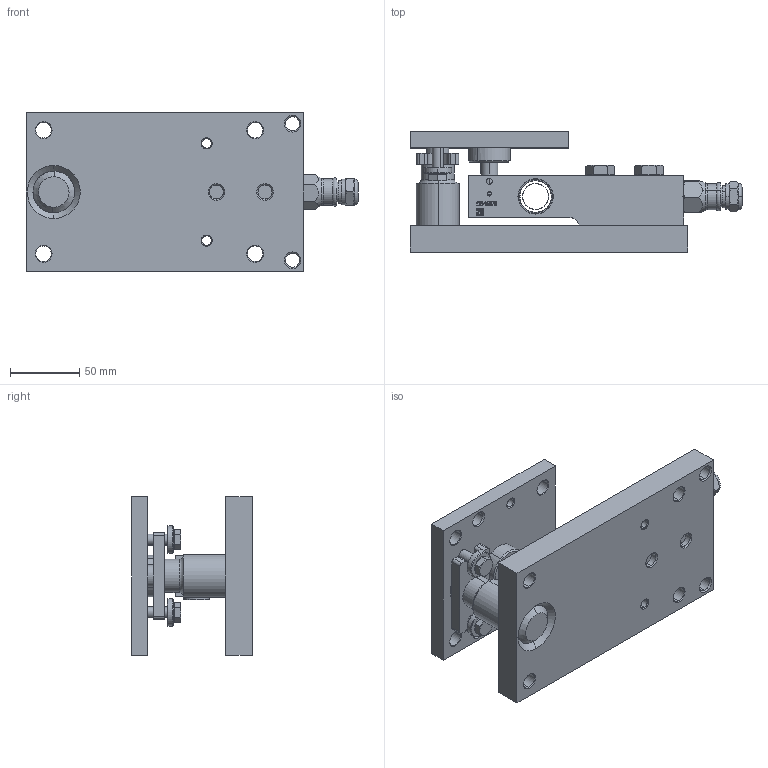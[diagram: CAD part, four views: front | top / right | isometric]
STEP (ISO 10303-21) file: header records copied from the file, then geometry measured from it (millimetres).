
FILE_DESCRIPTION (( 'STEP AP214' ), '1' );
FILE_NAME ('Load_Point_HI ONELP-H-1.125KLB-4.5KLB-XX_Without Check Links.STEP', '2016-08-18T21:34:58', ( 'Jim' ), ( 'Hewlett-Packard Company' ), 'SwSTEP 2.0', 'SolidWorks 2015', '' );
FILE_SCHEMA (( 'AUTOMOTIVE_DESIGN' ));
Length unit declared in the file: millimetre
Products named in the file (25): 0045191; 0019744; 0006668; 0005558; 0005556; 0006798; 0006697; 0009442; 0005552; 0005550; 0006620; Lift-Off Washer; Top Plate; ROCKER PIN ASSEMBLY; Base Plate Assembly; O-Ring; Lift-Off Plate; Rocker Pin; Center Pillar; Hex Screw GradeAB_ISO_ISO 4017 - M8 x 30-N-A2.70; Base Plate; Load Cup; Hex Screw GradeAB_ISO_ISO 4017 - M12 x 50-N-A2.70; Load_Point_HI ONELP-H-1.125KLB-4.5KLB-XX_Without Check Links; Load Sensor
Assembly tree (28 placements, depth 3):
  Load_Point_HI ONELP-H-1.125KLB-4.5KLB-XX_Without Check Links
    Base Plate Assembly
      Base Plate
      Center Pillar
      Lift-Off Plate
    Top Plate
    Lift-Off Washer  x2
    Load Sensor
      0006620
      0005550
      0005552
      0009442
      0006697
      0006798
      0005556
      0005558
      0006668
      0019744
      0045191
    Hex Screw GradeAB_ISO_ISO 4017 - M12 x 50-N-A2.70  x2
    Load Cup
    Hex Screw GradeAB_ISO_ISO 4017 - M8 x 30-N-A2.70  x2
    ROCKER PIN ASSEMBLY
      Rocker Pin
      O-Ring  x2
Bounding box: 239.13 x 86.75 x 114.3 mm (x, y, z)
Volume: 764217.8 mm3; surface area: 169801.6 mm2
Topology: 25 solids, 25 shells, 7172 faces, 20057 edges, 13679 vertices
Faces by surface type: bspline 4694, plane 1851, cylinder 394, cone 187, torus 46
Entity records: 372116 total; most frequent: CARTESIAN_POINT 215005, ORIENTED_EDGE 39798, EDGE_CURVE 19899, DIRECTION 16080, VERTEX_POINT 13591, B_SPLINE_CURVE_WITH_KNOTS 9916, LINE 8338, VECTOR 8338
